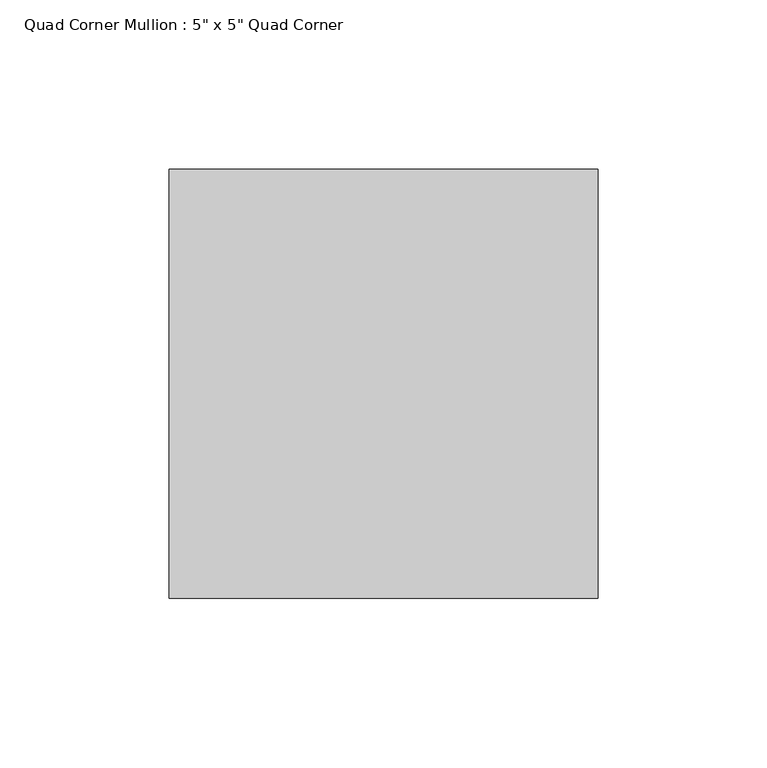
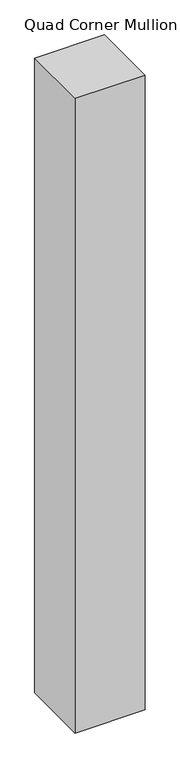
"""IFC4 building model written with IfcOpenShell, lengths in millimetres: member geometry."""

from ifc_helpers import new_model, si_unit, frame, origin, place, context, project, spatial, polyline, outline, extrude, source, transform, mapped, element, save


def member_8094d7b7(model_context):
    return source(origin(), model_context, "Body", "SweptSolid", [
        extrude(outline(polyline([(63.5, 63.5), (63.5, -63.5), (-63.5, -63.5), (-63.5, 63.5), (63.5, 63.5)])), frame((0.0, 0.0, -1219.2), z_axis=(0.0, 0.0, 1.0), x_axis=(1.0, 0.0, 0.0)), (0.0, 0.0, 1.0), 1219.2),
    ])


if __name__ == "__main__":
    model = new_model("IFC4")
    model_context = context("Model", 3, world=origin())
    ifc_project = project(units=[si_unit("LENGTHUNIT", "METRE", prefix="MILLI")], contexts=[model_context])
    site = spatial("IfcSite", under=ifc_project)
    building = spatial("IfcBuilding", under=site)
    placement = place(None, origin())
    member_shape = member_8094d7b7(model_context)
    element("IfcMember", 1, ObjectType="Quad Corner Mullion : 5\" x 5\" Quad Corner", at=placement, inside=building, context=model_context, shape_type="MappedRepresentation", body=[
        mapped(member_shape, transform((0.0, 0.0, 0.0), x_axis=(1.0, 0.0, 0.0), y_axis=(0.0, 1.0, 0.0), z_axis=(0.0, 0.0, 1.0))),
    ])
    save(model, "model.ifc")
